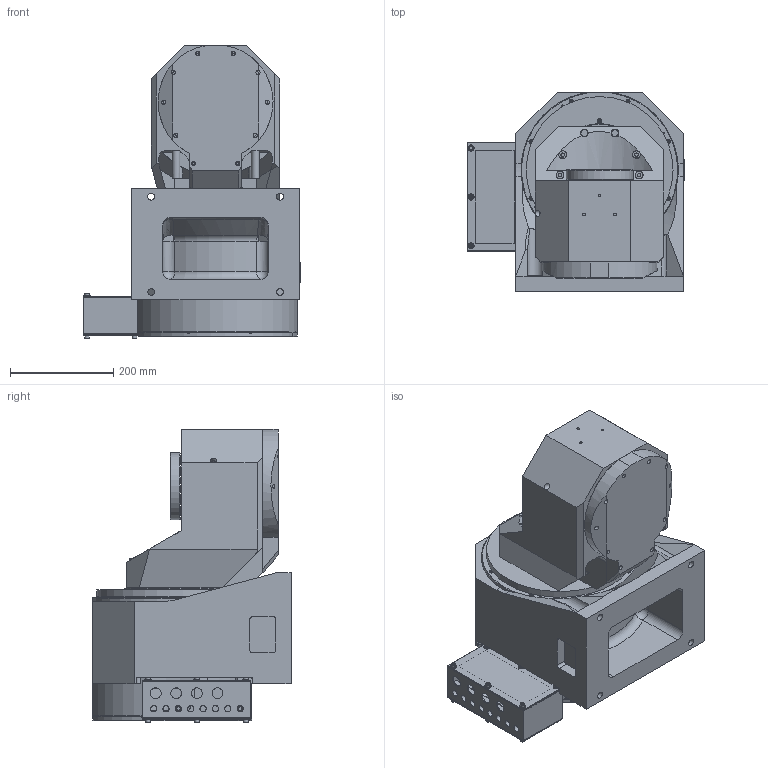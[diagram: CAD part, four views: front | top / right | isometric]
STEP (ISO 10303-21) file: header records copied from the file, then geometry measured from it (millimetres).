
FILE_DESCRIPTION (( 'STEP AP203' ), '1' );
FILE_NAME ('1505990.STEP', '2021-08-24T08:54:04', ( '' ), ( '' ), 'SwSTEP 2.0', 'SolidWorks 2021', '' );
FILE_SCHEMA (( 'CONFIG_CONTROL_DESIGN' ));
Length unit declared in the file: millimetre
Products named in the file (1): 1505990
Bounding box: 420.6 x 385 x 568.8 mm (x, y, z)
Surface area: 1311207.6 mm2 (no closed solid volume)
Topology: 0 solids, 116 shells, 643 faces, 3626 edges, 3066 vertices
Faces by surface type: plane 379, cylinder 184, cone 61, sphere 8, bspline 6, torus 5
Full cylindrical faces by diameter (mm): 1.6 x2, 2.5 x2, 3.4 x5, 4.3 x8, 5.2 x11, 8 x28, 8.72 x12, 9 x1, 9.5 x8, 10 x8, 12 x15, 13 x2, 13.5 x2, 14 x2, 15 x6, 16 x1, 21 x4, 30 x1, 31 x1, 130 x1, 178 x1, 201 x1, 202 x1, 285 x1
Entity records: 40508 total; most frequent: CARTESIAN_POINT 14745, DIRECTION 4551, ORIENTED_EDGE 4317, EDGE_CURVE 3420, VERTEX_POINT 3033, LINE 1853, VECTOR 1853, AXIS2_PLACEMENT_3D 1349
